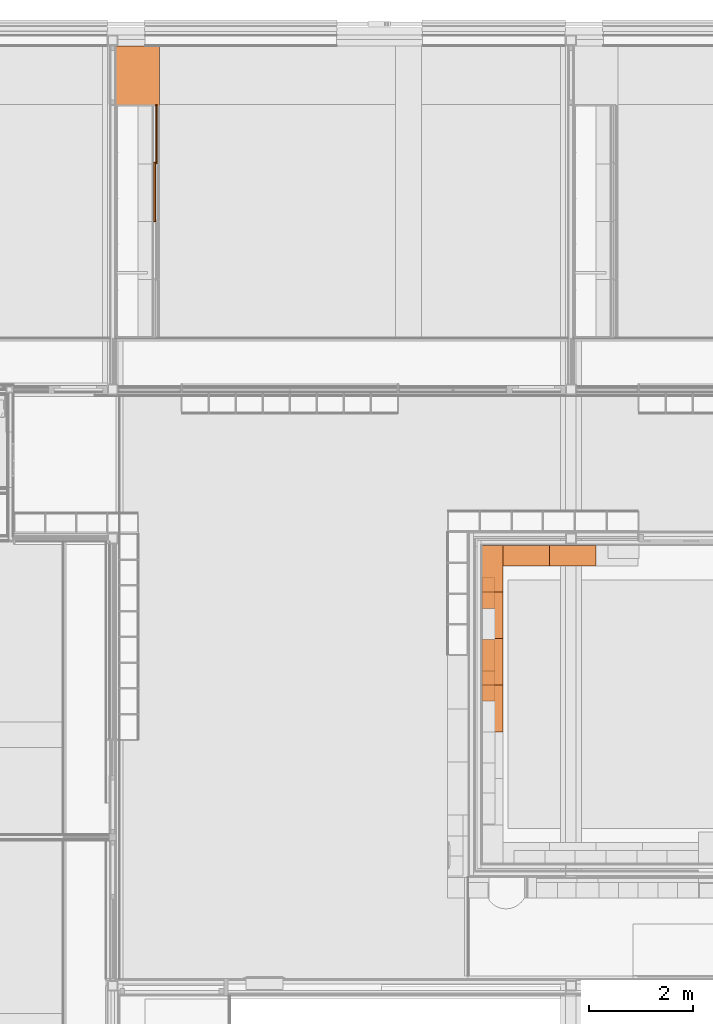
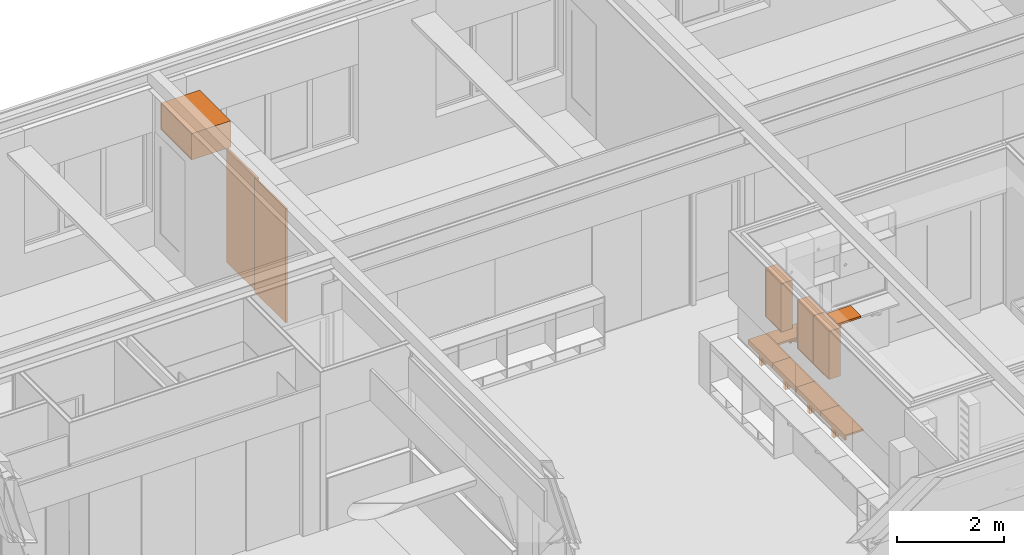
# One storey, part 123 of 137: 12 proxies.
"""IFC2X3 building model written with IfcOpenShell, lengths in millimetres."""

from ifc_helpers import new_model, entity, si_unit, converted_unit, derived_unit, money_unit, direction, frame, origin_with_axes, place, context, subcontext, project, spatial, faceted_brep, source, transform, mapped, type_object, type_shapes, element, save


model = new_model("IFC2X3")

# Units and contexts
model_context = context("Model", 3, precision=0.01, world=origin_with_axes(), true_north=direction((0.0, 1.0)))
body_context = subcontext(model_context, "Body", "Model", "MODEL_VIEW")
ifc_project = project(units=[si_unit("LENGTHUNIT", "METRE", prefix="MILLI"), si_unit("AREAUNIT", "SQUARE_METRE"), si_unit("VOLUMEUNIT", "CUBIC_METRE"), converted_unit("PLANEANGLEUNIT", "DEGREE", entity("IfcPlaneAngleMeasure", 0.0174532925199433), si_unit("PLANEANGLEUNIT", "RADIAN"), dimensions=[0, 0, 0, 0, 0, 0, 0]), money_unit("EUR"), converted_unit("TIMEUNIT", "Year", entity("IfcTimeMeasure", 31556926.0), si_unit("TIMEUNIT", "SECOND"), dimensions=[0, 0, 1, 0, 0, 0, 0]), si_unit("MASSUNIT", "GRAM", prefix="KILO"), si_unit("THERMODYNAMICTEMPERATUREUNIT", "DEGREE_CELSIUS"), si_unit("LUMINOUSINTENSITYUNIT", "LUMEN"), si_unit("ENERGYUNIT", "JOULE", prefix="MEGA"), derived_unit("THERMALCONDUCTANCEUNIT", [(si_unit("POWERUNIT", "WATT"), 1), (si_unit("LENGTHUNIT", "METRE"), -1), (si_unit("THERMODYNAMICTEMPERATUREUNIT", "KELVIN"), -1)]), derived_unit("SPECIFICHEATCAPACITYUNIT", [(si_unit("ENERGYUNIT", "JOULE"), 1), (si_unit("MASSUNIT", "GRAM", prefix="KILO"), -1), (si_unit("THERMODYNAMICTEMPERATUREUNIT", "KELVIN"), -1)]), derived_unit("MASSDENSITYUNIT", [(si_unit("MASSUNIT", "GRAM", prefix="KILO"), 1), (si_unit("VOLUMEUNIT", "CUBIC_METRE"), -1)])], contexts=[model_context])

# Site, building, storey
site_placement = place(None, origin_with_axes())
site = spatial("IfcSite", under=ifc_project, at=site_placement, Name="Site", CompositionType="ELEMENT")
building_placement = place(site_placement, origin_with_axes())
building = spatial("IfcBuilding", under=site, at=building_placement, Name="Naam gebouw", CompositionType="ELEMENT")
storey_placement = place(building_placement, frame((0.0, 0.0, 3960.0), z_axis=(0.0, 0.0, 1.0), x_axis=(1.0, 0.0, 0.0)))
storey = spatial("IfcBuildingStorey", under=building, at=storey_placement, Name="1e verdieping", CompositionType="ELEMENT", Elevation=3960.0)

# Proxies
building_element_proxy_type_1 = type_object("IfcBuildingElementProxyType", Name="Onderkast recht 26", PredefinedType="NOTDEFINED")
shared_shape_1 = source(origin_with_axes(), body_context, "Body", "Brep", [
    faceted_brep([(-1.0, -826.9999999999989, 1.0), (-1.0, -844.9999999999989, 1.000000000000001), (-1152.000152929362, -844.9999999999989, 1.000000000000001), (-1152.000152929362, -826.9999999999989, 1.0), (-1.0, -826.9999999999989, 599.0), (-1.0, -844.9999999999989, 599.0), (-1152.000152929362, -844.9999999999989, 599.0), (-1152.000152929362, -826.9999999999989, 599.0)], [[[0, 1, 2, 3]], [[4, 5, 1, 0]], [[1, 5, 6, 2]], [[3, 2, 6, 7]], [[0, 3, 7, 4]], [[7, 6, 5, 4]]]),
    faceted_brep([(-18.0, -826.9999999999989, 0.0), (-18.0, -826.9999999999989, 18.0), (-1135.000152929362, -826.9999999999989, 18.0), (-1135.000152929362, -826.9999999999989, 0.0), (-18.0, 0.0, 0.0), (-18.0, 0.0, 18.0), (-1135.000152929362, 0.0, 18.0), (-1135.000152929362, 0.0, 0.0)], [[[0, 1, 2, 3]], [[4, 5, 1, 0]], [[1, 5, 6, 2]], [[3, 2, 6, 7]], [[0, 3, 7, 4]], [[7, 6, 5, 4]]]),
    faceted_brep([(-18.0, -826.9999999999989, 582.0), (-18.0, -826.9999999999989, 600.0), (-1135.000152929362, -826.9999999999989, 600.0), (-1135.000152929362, -826.9999999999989, 582.0), (-18.0, 0.0, 582.0), (-18.0, 0.0, 600.0), (-1135.000152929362, 0.0, 600.0), (-1135.000152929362, 0.0, 582.0)], [[[0, 1, 2, 3]], [[4, 5, 1, 0]], [[1, 5, 6, 2]], [[3, 2, 6, 7]], [[0, 3, 7, 4]], [[7, 6, 5, 4]]]),
    faceted_brep([(0.0, 0.0, 0.0), (0.0, 0.0, 600.0), (0.0, -826.9999999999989, 600.0), (0.0, -826.9999999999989, 0.0), (-18.0, 0.0, 0.0), (-18.0, 0.0, 600.0), (-18.0, -826.9999999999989, 600.0), (-18.0, -826.9999999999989, 0.0)], [[[0, 1, 2, 3]], [[4, 5, 1, 0]], [[1, 5, 6, 2]], [[3, 2, 6, 7]], [[0, 3, 7, 4]], [[7, 6, 5, 4]]]),
    faceted_brep([(-1153.000152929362, -826.9999999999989, 0.0), (-1153.000152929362, -826.9999999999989, 600.0), (-1153.000152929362, 0.0, 600.0), (-1153.000152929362, 0.0, 0.0), (-1135.000152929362, -826.9999999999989, 0.0), (-1135.000152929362, -826.9999999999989, 600.0), (-1135.000152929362, 0.0, 600.0), (-1135.000152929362, 0.0, 0.0)], [[[0, 1, 2, 3]], [[4, 5, 1, 0]], [[1, 5, 6, 2]], [[3, 2, 6, 7]], [[0, 3, 7, 4]], [[7, 6, 5, 4]]]),
    faceted_brep([(-1135.000152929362, -9.0, 18.0), (-1135.000152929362, -9.0, 582.0), (-18.00000000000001, -9.0, 582.0), (-18.00000000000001, -9.0, 18.0), (-1135.000152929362, -18.0, 18.0), (-1135.000152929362, -18.0, 582.0), (-18.00000000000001, -18.0, 582.0), (-18.00000000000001, -18.0, 18.0)], [[[0, 1, 2, 3]], [[4, 5, 1, 0]], [[1, 5, 6, 2]], [[3, 2, 6, 7]], [[0, 3, 7, 4]], [[7, 6, 5, 4]]]),
])
proxy_1_placement = place(storey_placement, frame((8912.500000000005, 28961.0, 2600.0), z_axis=(0.0, 0.0, 1.0), x_axis=(0.0, 1.0, 0.0)))
element("IfcBuildingElementProxy", 1, at=proxy_1_placement, inside=storey, type_object=building_element_proxy_type_1, Name="_Leeg", context=body_context, shape_type="MappedRepresentation", body=[
    mapped(shared_shape_1, transform((0.0, 0.0, 0.0))),
])
building_element_proxy_type_2 = type_object("IfcBuildingElementProxyType", Name="gevelbekleding", PredefinedType="NOTDEFINED")
shared_shape_2 = source(origin_with_axes(), body_context, "Body", "Brep", [
    faceted_brep([(570.0000707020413, 0.0, 0.0), (570.0000707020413, -35.0, 0.0), (565.0000707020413, -35.0, 0.0), (565.0000707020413, 0.0, 0.0), (570.0000707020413, 0.0, 2600.0), (570.0000707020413, -35.0, 2600.0), (565.0000707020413, -35.0, 2600.0), (565.0000707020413, 0.0, 2600.0)], [[[0, 1, 2, 3]], [[4, 5, 1, 0]], [[1, 5, 6, 2]], [[3, 2, 6, 7]], [[0, 3, 7, 4]], [[7, 6, 5, 4]]]),
    faceted_brep([(-570.0000707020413, 0.0, 0.0), (-570.0000707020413, -35.0, 0.0), (-570.0000707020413, -35.0, 2600.0), (-570.0000707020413, 0.0, 2600.0), (-565.0000707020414, 0.0, 0.0), (-565.0000707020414, -35.0, 0.0), (-565.0000707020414, -35.0, 2600.0), (-565.0000707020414, 0.0, 2600.0)], [[[0, 1, 2, 3]], [[4, 5, 1, 0]], [[1, 5, 6, 2]], [[3, 2, 6, 7]], [[0, 3, 7, 4]], [[7, 6, 5, 4]]]),
    faceted_brep([(570.0000707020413, 0.0, 0.0), (570.0000707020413, -35.0, 0.0), (-570.0000707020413, -35.0, 0.0), (-570.0000707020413, 0.0, 0.0), (570.0000707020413, 0.0, 2600.0), (570.0000707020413, -35.0, 2600.0), (-570.0000707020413, -35.0, 2600.0), (-570.0000707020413, 0.0, 2600.0)], [[[0, 1, 2, 3]], [[4, 5, 1, 0]], [[1, 5, 6, 2]], [[3, 2, 6, 7]], [[0, 3, 7, 4]], [[7, 6, 5, 4]]]),
])
proxy_2_placement = place(storey_placement, frame((9712.500000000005, 27827.99984229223, 0.0), z_axis=(0.0, 0.0, 1.0), x_axis=(0.0, -1.0, 0.0)))
element("IfcBuildingElementProxy", 2, at=proxy_2_placement, inside=storey, type_object=building_element_proxy_type_2, Name="_-", context=body_context, shape_type="MappedRepresentation", body=[
    mapped(shared_shape_2, transform((570.00007070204, 0.0, 0.0))),
])
shared_shape_3 = source(origin_with_axes(), body_context, "Body", "Brep", [
    faceted_brep([(-577.5, 0.0, 0.0), (-572.5, 0.0, 0.0), (-572.5, -35.0, 0.0), (-577.5, -35.0, 0.0), (-577.5, 0.0, 2600.0), (-572.5, 0.0, 2600.0), (-572.5, -35.0, 2600.0), (-577.5, -35.0, 2600.0)], [[[0, 1, 2, 3]], [[0, 4, 5, 1]], [[1, 5, 6, 2]], [[3, 2, 6, 7]], [[4, 0, 3, 7]], [[5, 4, 7, 6]]]),
    faceted_brep([(577.5, 0.0, 0.0), (577.5, 0.0, 2600.0), (577.5, -35.0, 2600.0), (577.5, -35.0, 0.0), (572.5000000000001, 0.0, 0.0), (572.5000000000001, 0.0, 2600.0), (572.5000000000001, -35.0, 2600.0), (572.5000000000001, -35.0, 0.0)], [[[0, 1, 2, 3]], [[0, 4, 5, 1]], [[1, 5, 6, 2]], [[3, 2, 6, 7]], [[4, 0, 3, 7]], [[5, 4, 7, 6]]]),
    faceted_brep([(-577.5, 0.0, 0.0), (577.5, 0.0, 0.0), (577.5, -35.0, 0.0), (-577.5, -35.0, 0.0), (-577.5, 0.0, 2600.0), (577.5, 0.0, 2600.0), (577.5, -35.0, 2600.0), (-577.5, -35.0, 2600.0)], [[[0, 1, 2, 3]], [[0, 4, 5, 1]], [[1, 5, 6, 2]], [[3, 2, 6, 7]], [[4, 0, 3, 7]], [[5, 4, 7, 6]]]),
])
type_shapes(building_element_proxy_type_2, [shared_shape_2, shared_shape_3])
proxy_3_placement = place(storey_placement, frame((9712.500000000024, 26717.99977159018, 0.0), z_axis=(0.0, 0.0, 1.0), x_axis=(0.0, -1.0, 0.0)))
element("IfcBuildingElementProxy", 3, at=proxy_3_placement, inside=storey, type_object=building_element_proxy_type_2, Name="_-", context=body_context, shape_type="MappedRepresentation", body=[
    mapped(shared_shape_3, transform((577.5000000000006, -34.99999999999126, 0.0))),
])
building_element_proxy_type_3 = type_object("IfcBuildingElementProxyType", Name="Klaptafel wand 26", PredefinedType="NOTDEFINED")
shared_shape_4 = source(origin_with_axes(), body_context, "Body", "Brep", [
    faceted_brep([(470.0, 0.0, 620.0), (430.0, 0.0, 620.0), (430.0, 360.0000000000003, 620.0), (470.0, 360.0000000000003, 620.0), (470.0, 0.0, 700.0), (430.0, 0.0, 700.0), (430.0, 360.0000000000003, 700.0), (470.0, 360.0000000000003, 700.0)], [[[0, 1, 2, 3]], [[1, 0, 4, 5]], [[2, 1, 5, 6]], [[3, 2, 6, 7]], [[0, 3, 7, 4]], [[5, 4, 7, 6]]]),
    faceted_brep([(470.0, 280.0000000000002, 419.9999999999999), (430.0, 280.0000000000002, 419.9999999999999), (430.0, 360.0000000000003, 419.9999999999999), (470.0, 360.0000000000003, 419.9999999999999), (470.0, 280.0000000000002, 620.0), (430.0, 280.0000000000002, 620.0), (430.0, 360.0000000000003, 620.0), (470.0, 360.0000000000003, 620.0)], [[[0, 1, 2, 3]], [[1, 0, 4, 5]], [[2, 1, 5, 6]], [[3, 2, 6, 7]], [[0, 3, 7, 4]], [[5, 4, 7, 6]]]),
    faceted_brep([(430.0, 0.0, 620.0), (430.0, 280.0000000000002, 464.4444444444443), (470.0000000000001, 280.0000000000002, 464.4444444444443), (470.0, 0.0, 620.0), (430.0, 164.730082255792, 620.0), (430.0, 280.0000000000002, 555.9611568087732), (470.0000000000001, 280.0000000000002, 555.9611568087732), (470.0, 164.730082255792, 620.0)], [[[0, 1, 2, 3]], [[0, 4, 5, 1]], [[1, 5, 6, 2]], [[3, 2, 6, 7]], [[4, 0, 3, 7]], [[5, 4, 7, 6]]]),
    faceted_brep([(900.0, 0.0, 700.0), (0.0, 0.0, 700.0), (0.0, 320.0000000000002, 700.0), (900.0, 320.0000000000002, 700.0), (900.0, 0.0, 740.0), (0.0, 0.0, 740.0), (0.0, 320.0000000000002, 740.0), (900.0, 320.0000000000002, 740.0)], [[[0, 1, 2, 3]], [[1, 0, 4, 5]], [[2, 1, 5, 6]], [[3, 2, 6, 7]], [[0, 3, 7, 4]], [[5, 4, 7, 6]]]),
    faceted_brep([(900.0, 320.0000000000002, 700.0), (0.0, 320.0000000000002, 700.0), (0.0, 400.0000000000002, 700.0), (900.0, 400.0000000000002, 700.0), (900.0, 320.0000000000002, 740.0), (0.0, 320.0000000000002, 740.0), (0.0, 400.0000000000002, 740.0), (900.0, 400.0000000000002, 740.0)], [[[0, 1, 2, 3]], [[1, 0, 4, 5]], [[2, 1, 5, 6]], [[3, 2, 6, 7]], [[0, 3, 7, 4]], [[5, 4, 7, 6]]]),
    faceted_brep([(900.0, 360.0000000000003, 620.0), (0.0, 360.0000000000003, 620.0), (0.0, 400.0000000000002, 620.0), (900.0, 400.0000000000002, 620.0), (900.0, 360.0000000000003, 700.0), (0.0, 360.0000000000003, 700.0), (0.0, 400.0000000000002, 700.0), (900.0, 400.0000000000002, 700.0)], [[[0, 1, 2, 3]], [[1, 0, 4, 5]], [[2, 1, 5, 6]], [[3, 2, 6, 7]], [[0, 3, 7, 4]], [[5, 4, 7, 6]]]),
    faceted_brep([(490.0000000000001, 360.0000000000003, 419.9999999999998), (410.0000000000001, 360.0000000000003, 419.9999999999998), (410.0000000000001, 400.0000000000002, 419.9999999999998), (490.0000000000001, 400.0000000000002, 419.9999999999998), (490.0000000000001, 360.0000000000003, 619.9999999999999), (410.0000000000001, 360.0000000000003, 619.9999999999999), (410.0000000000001, 400.0000000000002, 619.9999999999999), (490.0000000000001, 400.0000000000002, 619.9999999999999)], [[[0, 1, 2, 3]], [[1, 0, 4, 5]], [[2, 1, 5, 6]], [[3, 2, 6, 7]], [[0, 3, 7, 4]], [[5, 4, 7, 6]]]),
])
type_shapes(building_element_proxy_type_3, [shared_shape_4])
for number, where, z_axis, x_axis in (
    (4, (16385.1954302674, 15715.02160771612, 459.9999999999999), (0.0, 0.0, 1.0), (-5.443940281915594e-05, 0.9999999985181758, 0.0)),
    (5, (16385.09743934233, 17515.02160504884, 459.9999999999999), (0.0, 0.0, 1.0), (-5.443940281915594e-05, 0.9999999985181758, 0.0)),
    (6, (16385.14643480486, 16615.02160638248, 459.9999999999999), (0.0, 0.0, 1.0), (-5.443940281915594e-05, 0.9999999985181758, 0.0)),
    (7, (16385.0484438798, 18415.02160371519, 459.9999999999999), (0.0, 0.0, 1.0), (-5.443940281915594e-05, 0.9999999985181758, 0.0)),
    (8, (16385.02122417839, 18915.02160297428, 459.9999999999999), (0.0, 0.0, 1.0), (0.9999999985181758, 5.443940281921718e-05, 0.0)),
    (9, (17285.02122284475, 18915.07059843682, 459.9999999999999), (0.0, 0.0, 1.0), (0.9999999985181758, 5.443940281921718e-05, 0.0)),
):
    element("IfcBuildingElementProxy", number, at=place(storey_placement, frame(where, z_axis=z_axis, x_axis=x_axis)), inside=storey, type_object=building_element_proxy_type_3, Name="_Leeg", context=body_context, shape_type="MappedRepresentation", body=[
        mapped(shared_shape_4, transform((0.0, 0.0, 0.0))),
    ])
shared_shape_5 = source(origin_with_axes(), body_context, "Body", "Brep", [
    faceted_brep([(-18.0, -250.0, 541.0000000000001), (-18.0, -250.0, 559.0000000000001), (-581.9999999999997, -250.0, 559.0000000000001), (-581.9999999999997, -250.0, 541.0000000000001), (-18.0, -18.0, 541.0000000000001), (-18.0, -18.0, 559.0000000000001), (-581.9999999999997, -18.0, 559.0000000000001), (-581.9999999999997, -18.0, 541.0000000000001)], [[[0, 1, 2, 3]], [[4, 5, 1, 0]], [[1, 5, 6, 2]], [[3, 2, 6, 7]], [[0, 3, 7, 4]], [[7, 6, 5, 4]]]),
    faceted_brep([(-580.9999999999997, -250.0, 19.00000000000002), (-19.00000000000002, -250.0, 19.00000000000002), (-19.00000000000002, -250.0, 540.0000000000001), (-580.9999999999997, -250.0, 540.0000000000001), (-511.1907786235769, -250.0, 275.7606042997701), (-508.9807621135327, -250.0, 280.5), (-505.981333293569, -250.0, 284.7836282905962), (-502.2836282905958, -250.0, 288.4813332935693), (-497.9999999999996, -250.0, 291.4807621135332), (-493.2606042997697, -250.0, 293.6907786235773), (-488.2094453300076, -250.0, 295.0442325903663), (-482.9999999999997, -250.0, 295.5000000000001), (-477.7905546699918, -250.0, 295.0442325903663), (-472.7393957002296, -250.0, 293.6907786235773), (-467.9999999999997, -250.0, 291.4807621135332), (-463.7163717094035, -250.0, 288.4813332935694), (-460.0186667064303, -250.0, 284.7836282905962), (-457.0192378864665, -250.0, 280.5000000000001), (-454.8092213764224, -250.0, 275.7606042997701), (-453.4557674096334, -250.0, 270.709445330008), (-452.9999999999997, -250.0, 265.5000000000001), (-453.4557674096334, -250.0, 260.2905546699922), (-454.8092213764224, -250.0, 255.23939570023), (-457.0192378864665, -250.0, 250.5000000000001), (-460.0186667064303, -250.0, 246.2163717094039), (-463.7163717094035, -250.0, 242.5186667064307), (-467.9999999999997, -250.0, 239.5192378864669), (-472.7393957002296, -250.0, 237.3092213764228), (-477.7905546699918, -250.0, 235.9557674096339), (-482.9999999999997, -250.0, 235.5000000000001), (-488.2094453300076, -250.0, 235.9557674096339), (-493.2606042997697, -250.0, 237.3092213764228), (-497.9999999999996, -250.0, 239.519237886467), (-502.2836282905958, -250.0, 242.5186667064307), (-505.981333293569, -250.0, 246.2163717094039), (-508.9807621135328, -250.0, 250.5000000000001), (-511.1907786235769, -250.0, 255.23939570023), (-512.5442325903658, -250.0, 260.2905546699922), (-512.9999999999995, -250.0, 265.5000000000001), (-512.5442325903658, -250.0, 270.709445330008), (-580.9999999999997, -232.0, 19.00000000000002), (-19.00000000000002, -232.0, 19.00000000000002), (-19.00000000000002, -232.0, 540.0000000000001), (-580.9999999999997, -232.0, 540.0000000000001), (-508.9807621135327, -232.0, 280.5), (-511.1907786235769, -232.0, 275.7606042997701), (-505.981333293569, -232.0, 284.7836282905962), (-502.2836282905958, -232.0, 288.4813332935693), (-497.9999999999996, -232.0, 291.4807621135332), (-493.2606042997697, -232.0, 293.6907786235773), (-488.2094453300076, -232.0, 295.0442325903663), (-482.9999999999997, -232.0, 295.5000000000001), (-477.7905546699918, -232.0, 295.0442325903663), (-472.7393957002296, -232.0, 293.6907786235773), (-467.9999999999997, -232.0, 291.4807621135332), (-463.7163717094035, -232.0, 288.4813332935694), (-460.0186667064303, -232.0, 284.7836282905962), (-457.0192378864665, -232.0, 280.5000000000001), (-454.8092213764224, -232.0, 275.7606042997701), (-453.4557674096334, -232.0, 270.709445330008), (-452.9999999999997, -232.0, 265.5000000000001), (-453.4557674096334, -232.0, 260.2905546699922), (-454.8092213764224, -232.0, 255.23939570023), (-457.0192378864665, -232.0, 250.5000000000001), (-460.0186667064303, -232.0, 246.2163717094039), (-463.7163717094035, -232.0, 242.5186667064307), (-467.9999999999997, -232.0, 239.5192378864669), (-472.7393957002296, -232.0, 237.3092213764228), (-477.7905546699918, -232.0, 235.9557674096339), (-482.9999999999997, -232.0, 235.5000000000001), (-488.2094453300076, -232.0, 235.9557674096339), (-493.2606042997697, -232.0, 237.3092213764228), (-497.9999999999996, -232.0, 239.519237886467), (-502.2836282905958, -232.0, 242.5186667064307), (-505.981333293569, -232.0, 246.2163717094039), (-508.9807621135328, -232.0, 250.5000000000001), (-511.1907786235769, -232.0, 255.23939570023), (-512.5442325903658, -232.0, 260.2905546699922), (-512.9999999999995, -232.0, 265.5000000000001), (-512.5442325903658, -232.0, 270.709445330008)], [[[0, 1, 2, 3], [4, 5, 6, 7, 8, 9, 10, 11, 12, 13, 14, 15, 16, 17, 18, 19, 20, 21, 22, 23, 24, 25, 26, 27, 28, 29, 30, 31, 32, 33, 34, 35, 36, 37, 38, 39]], [[40, 41, 1, 0]], [[41, 42, 2, 1]], [[42, 43, 3, 2]], [[43, 40, 0, 3]], [[44, 5, 4, 45]], [[46, 6, 5, 44]], [[47, 7, 6, 46]], [[48, 8, 7, 47]], [[49, 9, 8, 48]], [[50, 10, 9, 49]], [[51, 11, 10, 50]], [[52, 12, 11, 51]], [[53, 13, 12, 52]], [[54, 14, 13, 53]], [[55, 15, 14, 54]], [[56, 16, 15, 55]], [[57, 17, 16, 56]], [[58, 18, 17, 57]], [[59, 19, 18, 58]], [[60, 20, 19, 59]], [[61, 21, 20, 60]], [[62, 22, 21, 61]], [[63, 23, 22, 62]], [[64, 24, 23, 63]], [[65, 25, 24, 64]], [[66, 26, 25, 65]], [[67, 27, 26, 66]], [[68, 28, 27, 67]], [[69, 29, 28, 68]], [[70, 30, 29, 69]], [[71, 31, 30, 70]], [[72, 32, 31, 71]], [[73, 33, 32, 72]], [[74, 34, 33, 73]], [[75, 35, 34, 74]], [[76, 36, 35, 75]], [[77, 37, 36, 76]], [[78, 38, 37, 77]], [[79, 39, 38, 78]], [[45, 4, 39, 79]], [[42, 41, 40, 43], [76, 75, 74, 73, 72, 71, 70, 69, 68, 67, 66, 65, 64, 63, 62, 61, 60, 59, 58, 57, 56, 55, 54, 53, 52, 51, 50, 49, 48, 47, 46, 44, 45, 79, 78, 77]]]),
    faceted_brep([(-18.0, -250.0, 0.0), (-18.0, -250.0, 18.0), (-581.9999999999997, -250.0, 18.0), (-581.9999999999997, -250.0, 0.0), (-18.0, 0.0, 0.0), (-18.0, 0.0, 18.0), (-581.9999999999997, 0.0, 18.0), (-581.9999999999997, 0.0, 0.0)], [[[0, 1, 2, 3]], [[4, 5, 1, 0]], [[1, 5, 6, 2]], [[3, 2, 6, 7]], [[0, 3, 7, 4]], [[7, 6, 5, 4]]]),
    faceted_brep([(-18.0, -250.0, 1082.0), (-18.0, -250.0, 1100.0), (-581.9999999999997, -250.0, 1100.0), (-581.9999999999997, -250.0, 1082.0), (-18.0, 0.0, 1082.0), (-18.0, 0.0, 1100.0), (-581.9999999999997, 0.0, 1100.0), (-581.9999999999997, 0.0, 1082.0)], [[[0, 1, 2, 3]], [[4, 5, 1, 0]], [[1, 5, 6, 2]], [[3, 2, 6, 7]], [[0, 3, 7, 4]], [[7, 6, 5, 4]]]),
    faceted_brep([(0.0, 0.0, 0.0), (0.0, 0.0, 1100.0), (0.0, -250.0, 1100.0), (0.0, -250.0, 0.0), (-18.0, 0.0, 0.0), (-18.0, 0.0, 1100.0), (-18.0, -250.0, 1100.0), (-18.0, -250.0, 0.0)], [[[0, 1, 2, 3]], [[4, 5, 1, 0]], [[1, 5, 6, 2]], [[3, 2, 6, 7]], [[0, 3, 7, 4]], [[7, 6, 5, 4]]]),
    faceted_brep([(-599.9999999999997, -250.0, 0.0), (-599.9999999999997, -250.0, 1100.0), (-599.9999999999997, 0.0, 1100.0), (-599.9999999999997, 0.0, 0.0), (-581.9999999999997, -250.0, 0.0), (-581.9999999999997, -250.0, 1100.0), (-581.9999999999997, 0.0, 1100.0), (-581.9999999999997, 0.0, 0.0)], [[[0, 1, 2, 3]], [[4, 5, 1, 0]], [[1, 5, 6, 2]], [[3, 2, 6, 7]], [[0, 3, 7, 4]], [[7, 6, 5, 4]]]),
    faceted_brep([(-581.9999999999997, -9.0, 18.0), (-581.9999999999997, -9.0, 1082.0), (-18.00000000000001, -9.0, 1082.0), (-18.00000000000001, -9.0, 18.0), (-581.9999999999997, -18.0, 18.0), (-581.9999999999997, -18.0, 1082.0), (-18.00000000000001, -18.0, 1082.0), (-18.00000000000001, -18.0, 18.0)], [[[0, 1, 2, 3]], [[4, 5, 1, 0]], [[1, 5, 6, 2]], [[3, 2, 6, 7]], [[0, 3, 7, 4]], [[7, 6, 5, 4]]]),
])
proxy_4_placement = place(storey_placement, frame((15984.99945960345, 17494.00727895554, 2100.000000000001), z_axis=(0.0, 0.0, 1.0), x_axis=(0.0, 1.0, 0.0)))
element("IfcBuildingElementProxy", 10, at=proxy_4_placement, inside=storey, type_object=building_element_proxy_type_1, Name="_Leeg", context=body_context, shape_type="MappedRepresentation", body=[
    mapped(shared_shape_5, transform((0.0, 0.0, 0.0))),
])
shared_shape_6 = source(origin_with_axes(), body_context, "Body", "Brep", [
    faceted_brep([(-18.0, -250.0, 541.0000000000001), (-18.0, -250.0, 559.0000000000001), (-581.9999999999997, -250.0, 559.0000000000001), (-581.9999999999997, -250.0, 541.0000000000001), (-18.0, -18.0, 541.0000000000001), (-18.0, -18.0, 559.0000000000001), (-581.9999999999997, -18.0, 559.0000000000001), (-581.9999999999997, -18.0, 541.0000000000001)], [[[0, 1, 2, 3]], [[4, 5, 1, 0]], [[1, 5, 6, 2]], [[3, 2, 6, 7]], [[0, 3, 7, 4]], [[7, 6, 5, 4]]]),
    faceted_brep([(-580.9999999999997, -250.0, 560.0000000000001), (-19.00000000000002, -250.0, 560.0000000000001), (-19.00000000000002, -250.0, 1081.0), (-580.9999999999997, -250.0, 1081.0), (-511.1907786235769, -250.0, 831.7606042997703), (-508.9807621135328, -250.0, 836.5000000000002), (-505.981333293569, -250.0, 840.7836282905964), (-502.2836282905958, -250.0, 844.4813332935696), (-497.9999999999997, -250.0, 847.4807621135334), (-493.2606042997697, -250.0, 849.6907786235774), (-488.2094453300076, -250.0, 851.0442325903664), (-482.9999999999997, -250.0, 851.5000000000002), (-477.7905546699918, -250.0, 851.0442325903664), (-472.7393957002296, -250.0, 849.6907786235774), (-467.9999999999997, -250.0, 847.4807621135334), (-463.7163717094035, -250.0, 844.4813332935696), (-460.0186667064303, -250.0, 840.7836282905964), (-457.0192378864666, -250.0, 836.5000000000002), (-454.8092213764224, -250.0, 831.7606042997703), (-453.4557674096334, -250.0, 826.7094453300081), (-452.9999999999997, -250.0, 821.5000000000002), (-453.4557674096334, -250.0, 816.2905546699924), (-454.8092213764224, -250.0, 811.2393957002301), (-457.0192378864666, -250.0, 806.5000000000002), (-460.0186667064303, -250.0, 802.216371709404), (-463.7163717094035, -250.0, 798.5186667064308), (-467.9999999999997, -250.0, 795.5192378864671), (-472.7393957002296, -250.0, 793.309221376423), (-477.7905546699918, -250.0, 791.9557674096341), (-482.9999999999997, -250.0, 791.5000000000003), (-488.2094453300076, -250.0, 791.9557674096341), (-493.2606042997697, -250.0, 793.309221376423), (-497.9999999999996, -250.0, 795.5192378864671), (-502.2836282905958, -250.0, 798.5186667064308), (-505.981333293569, -250.0, 802.216371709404), (-508.9807621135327, -250.0, 806.5000000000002), (-511.1907786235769, -250.0, 811.2393957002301), (-512.5442325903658, -250.0, 816.2905546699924), (-512.9999999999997, -250.0, 821.5000000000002), (-512.5442325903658, -250.0, 826.7094453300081), (-580.9999999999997, -232.0, 560.0000000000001), (-19.00000000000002, -232.0, 560.0000000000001), (-19.00000000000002, -232.0, 1081.0), (-580.9999999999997, -232.0, 1081.0), (-508.9807621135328, -232.0, 836.5000000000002), (-511.1907786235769, -232.0, 831.7606042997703), (-505.981333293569, -232.0, 840.7836282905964), (-502.2836282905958, -232.0, 844.4813332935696), (-497.9999999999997, -232.0, 847.4807621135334), (-493.2606042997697, -232.0, 849.6907786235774), (-488.2094453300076, -232.0, 851.0442325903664), (-482.9999999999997, -232.0, 851.5000000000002), (-477.7905546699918, -232.0, 851.0442325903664), (-472.7393957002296, -232.0, 849.6907786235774), (-467.9999999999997, -232.0, 847.4807621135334), (-463.7163717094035, -232.0, 844.4813332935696), (-460.0186667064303, -232.0, 840.7836282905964), (-457.0192378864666, -232.0, 836.5000000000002), (-454.8092213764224, -232.0, 831.7606042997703), (-453.4557674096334, -232.0, 826.7094453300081), (-452.9999999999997, -232.0, 821.5000000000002), (-453.4557674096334, -232.0, 816.2905546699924), (-454.8092213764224, -232.0, 811.2393957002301), (-457.0192378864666, -232.0, 806.5000000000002), (-460.0186667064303, -232.0, 802.216371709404), (-463.7163717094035, -232.0, 798.5186667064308), (-467.9999999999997, -232.0, 795.5192378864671), (-472.7393957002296, -232.0, 793.309221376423), (-477.7905546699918, -232.0, 791.9557674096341), (-482.9999999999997, -232.0, 791.5000000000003), (-488.2094453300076, -232.0, 791.9557674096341), (-493.2606042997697, -232.0, 793.309221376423), (-497.9999999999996, -232.0, 795.5192378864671), (-502.2836282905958, -232.0, 798.5186667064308), (-505.981333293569, -232.0, 802.216371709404), (-508.9807621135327, -232.0, 806.5000000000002), (-511.1907786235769, -232.0, 811.2393957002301), (-512.5442325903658, -232.0, 816.2905546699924), (-512.9999999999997, -232.0, 821.5000000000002), (-512.5442325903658, -232.0, 826.7094453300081)], [[[0, 1, 2, 3], [4, 5, 6, 7, 8, 9, 10, 11, 12, 13, 14, 15, 16, 17, 18, 19, 20, 21, 22, 23, 24, 25, 26, 27, 28, 29, 30, 31, 32, 33, 34, 35, 36, 37, 38, 39]], [[40, 41, 1, 0]], [[41, 42, 2, 1]], [[42, 43, 3, 2]], [[43, 40, 0, 3]], [[44, 5, 4, 45]], [[46, 6, 5, 44]], [[47, 7, 6, 46]], [[48, 8, 7, 47]], [[49, 9, 8, 48]], [[50, 10, 9, 49]], [[51, 11, 10, 50]], [[52, 12, 11, 51]], [[53, 13, 12, 52]], [[54, 14, 13, 53]], [[55, 15, 14, 54]], [[56, 16, 15, 55]], [[57, 17, 16, 56]], [[58, 18, 17, 57]], [[59, 19, 18, 58]], [[60, 20, 19, 59]], [[61, 21, 20, 60]], [[62, 22, 21, 61]], [[63, 23, 22, 62]], [[64, 24, 23, 63]], [[65, 25, 24, 64]], [[66, 26, 25, 65]], [[67, 27, 26, 66]], [[68, 28, 27, 67]], [[69, 29, 28, 68]], [[70, 30, 29, 69]], [[71, 31, 30, 70]], [[72, 32, 31, 71]], [[73, 33, 32, 72]], [[74, 34, 33, 73]], [[75, 35, 34, 74]], [[76, 36, 35, 75]], [[77, 37, 36, 76]], [[78, 38, 37, 77]], [[79, 39, 38, 78]], [[45, 4, 39, 79]], [[42, 41, 40, 43], [76, 75, 74, 73, 72, 71, 70, 69, 68, 67, 66, 65, 64, 63, 62, 61, 60, 59, 58, 57, 56, 55, 54, 53, 52, 51, 50, 49, 48, 47, 46, 44, 45, 79, 78, 77]]]),
    faceted_brep([(-18.0, -250.0, 0.0), (-18.0, -250.0, 18.0), (-581.9999999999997, -250.0, 18.0), (-581.9999999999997, -250.0, 0.0), (-18.0, 0.0, 0.0), (-18.0, 0.0, 18.0), (-581.9999999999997, 0.0, 18.0), (-581.9999999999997, 0.0, 0.0)], [[[0, 1, 2, 3]], [[4, 5, 1, 0]], [[1, 5, 6, 2]], [[3, 2, 6, 7]], [[0, 3, 7, 4]], [[7, 6, 5, 4]]]),
    faceted_brep([(-18.0, -250.0, 1082.0), (-18.0, -250.0, 1100.0), (-581.9999999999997, -250.0, 1100.0), (-581.9999999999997, -250.0, 1082.0), (-18.0, 0.0, 1082.0), (-18.0, 0.0, 1100.0), (-581.9999999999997, 0.0, 1100.0), (-581.9999999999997, 0.0, 1082.0)], [[[0, 1, 2, 3]], [[4, 5, 1, 0]], [[1, 5, 6, 2]], [[3, 2, 6, 7]], [[0, 3, 7, 4]], [[7, 6, 5, 4]]]),
    faceted_brep([(0.0, 0.0, 0.0), (0.0, 0.0, 1100.0), (0.0, -250.0, 1100.0), (0.0, -250.0, 0.0), (-18.0, 0.0, 0.0), (-18.0, 0.0, 1100.0), (-18.0, -250.0, 1100.0), (-18.0, -250.0, 0.0)], [[[0, 1, 2, 3]], [[4, 5, 1, 0]], [[1, 5, 6, 2]], [[3, 2, 6, 7]], [[0, 3, 7, 4]], [[7, 6, 5, 4]]]),
    faceted_brep([(-599.9999999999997, -250.0, 0.0), (-599.9999999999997, -250.0, 1100.0), (-599.9999999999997, 0.0, 1100.0), (-599.9999999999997, 0.0, 0.0), (-581.9999999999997, -250.0, 0.0), (-581.9999999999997, -250.0, 1100.0), (-581.9999999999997, 0.0, 1100.0), (-581.9999999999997, 0.0, 0.0)], [[[0, 1, 2, 3]], [[4, 5, 1, 0]], [[1, 5, 6, 2]], [[3, 2, 6, 7]], [[0, 3, 7, 4]], [[7, 6, 5, 4]]]),
    faceted_brep([(-581.9999999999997, -9.0, 18.0), (-581.9999999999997, -9.0, 1082.0), (-18.00000000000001, -9.0, 1082.0), (-18.00000000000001, -9.0, 18.0), (-581.9999999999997, -18.0, 18.0), (-581.9999999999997, -18.0, 1082.0), (-18.00000000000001, -18.0, 1082.0), (-18.00000000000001, -18.0, 18.0)], [[[0, 1, 2, 3]], [[4, 5, 1, 0]], [[1, 5, 6, 2]], [[3, 2, 6, 7]], [[0, 3, 7, 4]], [[7, 6, 5, 4]]]),
])
type_shapes(building_element_proxy_type_1, [shared_shape_1, shared_shape_6, shared_shape_5])
for number, where, z_axis, x_axis in (
    (11, (15984.99945960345, 16912.00727895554, 2100.000000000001), (0.0, 0.0, 1.0), (0.0, 1.0, 0.0)),
    (12, (15984.99945960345, 18694.00727895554, 2100.000000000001), (0.0, 0.0, 1.0), (0.0, 1.0, 0.0)),
):
    element("IfcBuildingElementProxy", number, at=place(storey_placement, frame(where, z_axis=z_axis, x_axis=x_axis)), inside=storey, type_object=building_element_proxy_type_1, Name="_Leeg", context=body_context, shape_type="MappedRepresentation", body=[
        mapped(shared_shape_6, transform((0.0, 0.0, 0.0))),
    ])

save(model, "model.ifc")
